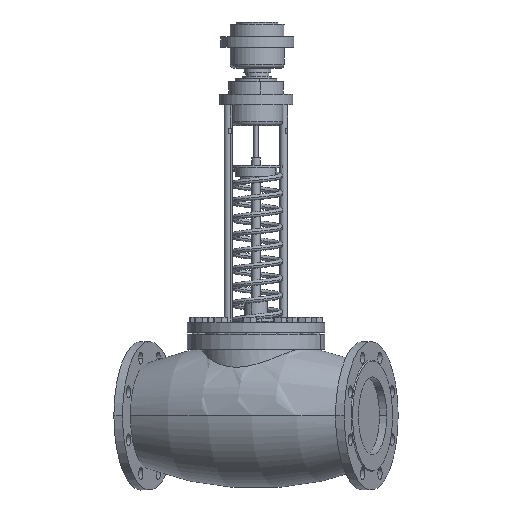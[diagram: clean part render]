
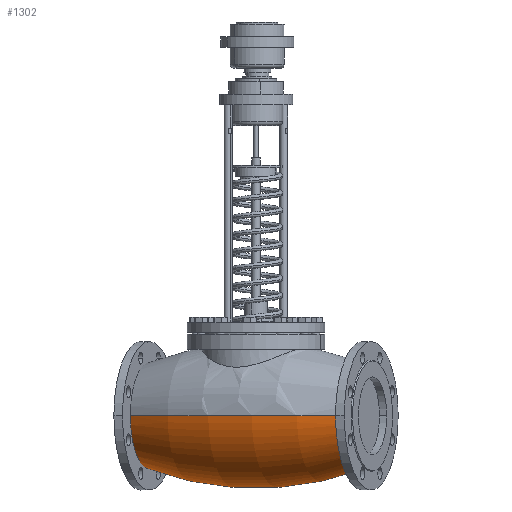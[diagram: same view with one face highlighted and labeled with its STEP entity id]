
A CAD part, left-side view. The second image highlights one B-rep face of the part: STEP entity #1302.
In plain terms, the highlighted toroidal (fillet/blend) face has major radius 528.398 mm and minor radius 667.465 mm.
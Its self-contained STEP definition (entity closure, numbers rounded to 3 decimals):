
#3 = DIRECTION ( 'NONE',  ( 0.362, 0.932, 0. ) ) ;
#41 = ORIENTED_EDGE ( 'NONE', *, *, #1104, .F. ) ;
#209 = CIRCLE ( 'NONE', #4955, 667.465 ) ;
#523 = DIRECTION ( 'NONE',  ( 1., 0., 0. ) ) ;
#871 = CARTESIAN_POINT ( 'NONE',  ( 17.105, -236.614, -621.952 ) ) ;
#1104 = EDGE_CURVE ( 'NONE', #7278, #7162, #209, .T. ) ;
#1302 = ADVANCED_FACE ( 'NONE', ( #9132 ), #12355, .T. ) ;
#3107 = CARTESIAN_POINT ( 'NONE',  ( -14.061, 246.241, -621.952 ) ) ;
#3123 = DIRECTION ( 'NONE',  ( 0.932, -0.362, 0. ) ) ;
#3183 = CARTESIAN_POINT ( 'NONE',  ( 80.995, 209.297, -621.952 ) ) ;
#3299 = CARTESIAN_POINT ( 'NONE',  ( -173.007, -162.727, -621.952 ) ) ;
#4849 = EDGE_LOOP ( 'NONE', ( #10910, #8546, #9439, #41 ) ) ;
#4955 = AXIS2_PLACEMENT_3D ( 'NONE', #5679, #8463, #523 ) ;
#5261 = DIRECTION ( 'NONE',  ( 0.362, 0.932, 0. ) ) ;
#5679 = CARTESIAN_POINT ( 'NONE',  ( -490.987, 196.228, -621.952 ) ) ;
#5691 = CIRCLE ( 'NONE', #6725, 101.983 ) ;
#5773 = AXIS2_PLACEMENT_3D ( 'NONE', #11125, #5261, #3123 ) ;
#6343 = DIRECTION ( 'NONE',  ( 0., 0., -1. ) ) ;
#6725 = AXIS2_PLACEMENT_3D ( 'NONE', #3183, #7018, #6953 ) ;
#6953 = DIRECTION ( 'NONE',  ( -0.932, 0.362, 0. ) ) ;
#6971 = CARTESIAN_POINT ( 'NONE',  ( -77.951, -199.67, -621.952 ) ) ;
#7018 = DIRECTION ( 'NONE',  ( 0.362, 0.932, 0. ) ) ;
#7162 = VERTEX_POINT ( 'NONE', #7406 ) ;
#7278 = VERTEX_POINT ( 'NONE', #871 ) ;
#7406 = CARTESIAN_POINT ( 'NONE',  ( 176.051, 172.353, -621.952 ) ) ;
#8110 = VERTEX_POINT ( 'NONE', #3107 ) ;
#8210 = DIRECTION ( 'NONE',  ( -1., 0., 0. ) ) ;
#8237 = VERTEX_POINT ( 'NONE', #3299 ) ;
#8258 = EDGE_CURVE ( 'NONE', #8237, #8110, #11689, .T. ) ;
#8347 = AXIS2_PLACEMENT_3D ( 'NONE', #12196, #6343, #8210 ) ;
#8463 = DIRECTION ( 'NONE',  ( 0., 0., 1. ) ) ;
#8546 = ORIENTED_EDGE ( 'NONE', *, *, #8258, .T. ) ;
#8800 = AXIS2_PLACEMENT_3D ( 'NONE', #6971, #3, #10889 ) ;
#9132 = FACE_OUTER_BOUND ( 'NONE', #4849, .T. ) ;
#9222 = CIRCLE ( 'NONE', #8800, 101.983 ) ;
#9350 = EDGE_CURVE ( 'NONE', #7162, #8110, #5691, .T. ) ;
#9439 = ORIENTED_EDGE ( 'NONE', *, *, #9350, .F. ) ;
#10889 = DIRECTION ( 'NONE',  ( -0.932, 0.362, 0. ) ) ;
#10910 = ORIENTED_EDGE ( 'NONE', *, *, #11853, .T. ) ;
#11125 = CARTESIAN_POINT ( 'NONE',  ( 1.522, 4.813, -621.952 ) ) ;
#11689 = CIRCLE ( 'NONE', #8347, 667.465 ) ;
#11853 = EDGE_CURVE ( 'NONE', #7278, #8237, #9222, .T. ) ;
#12196 = CARTESIAN_POINT ( 'NONE',  ( 494.031, -186.601, -621.952 ) ) ;
#12355 = TOROIDAL_SURFACE ( 'NONE', #5773, -528.398, 667.465 ) ;
